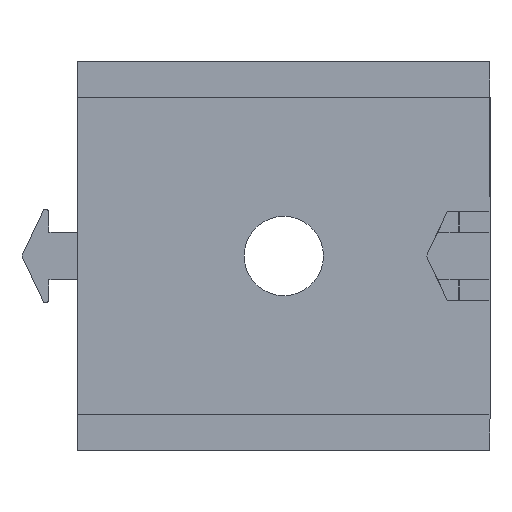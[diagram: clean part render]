
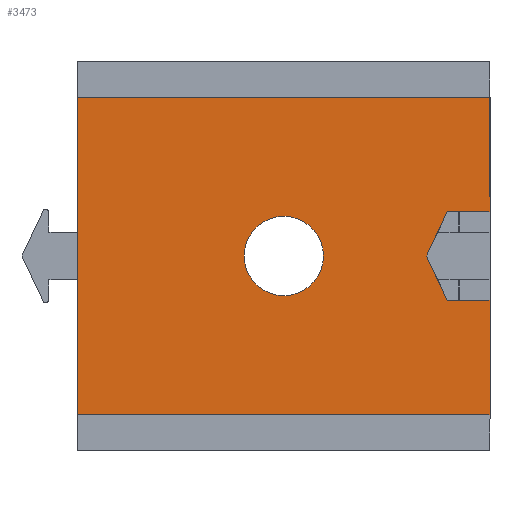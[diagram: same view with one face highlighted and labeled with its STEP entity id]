
A CAD part, front view. The second image highlights one B-rep face of the part: STEP entity #3473.
In plain terms, the highlighted planar face has unit normal (0, -1, 0).
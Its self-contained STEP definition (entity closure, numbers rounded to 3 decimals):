
#169 = CARTESIAN_POINT ( 'NONE',  ( -5.999, -27., 10. ) ) ;
#170 = DIRECTION ( 'NONE',  ( 1., 0., 0. ) ) ;
#193 = CARTESIAN_POINT ( 'NONE',  ( -5.999, -27., -10. ) ) ;
#194 = DIRECTION ( 'NONE',  ( 1., 0., 0. ) ) ;
#281 = PLANE ( 'NONE',  #4165 ) ;
#282 = CARTESIAN_POINT ( 'NONE',  ( -5.999, -27., 10. ) ) ;
#287 = DIRECTION ( 'NONE',  ( 0., 1., 0. ) ) ;
#288 = DIRECTION ( 'NONE',  ( 0., 0., 1. ) ) ;
#350 = CARTESIAN_POINT ( 'NONE',  ( -5.999, -27., 2.8 ) ) ;
#372 = DIRECTION ( 'NONE',  ( 1., 0., 0. ) ) ;
#569 = CARTESIAN_POINT ( 'NONE',  ( 0., -27., 0. ) ) ;
#570 = DIRECTION ( 'NONE',  ( 0., 1., 0. ) ) ;
#571 = DIRECTION ( 'NONE',  ( 0., 0., 1. ) ) ;
#744 = CARTESIAN_POINT ( 'NONE',  ( 13., -27., 10. ) ) ;
#808 = CARTESIAN_POINT ( 'NONE',  ( -13., -27., 10. ) ) ;
#854 = CARTESIAN_POINT ( 'NONE',  ( 13., -27., -2.8 ) ) ;
#884 = CARTESIAN_POINT ( 'NONE',  ( 0., -27., -2.5 ) ) ;
#894 = CARTESIAN_POINT ( 'NONE',  ( 13., -27., 2.8 ) ) ;
#914 = CARTESIAN_POINT ( 'NONE',  ( 10.306, -27., 2.8 ) ) ;
#927 = CARTESIAN_POINT ( 'NONE',  ( 0., -27., 2.5 ) ) ;
#945 = CARTESIAN_POINT ( 'NONE',  ( 13., -27., -10. ) ) ;
#951 = CARTESIAN_POINT ( 'NONE',  ( 9., -27., 0. ) ) ;
#986 = CARTESIAN_POINT ( 'NONE',  ( 10.306, -27., -2.8 ) ) ;
#991 = CARTESIAN_POINT ( 'NONE',  ( -13., -27., -10. ) ) ;
#1028 = CARTESIAN_POINT ( 'NONE',  ( 13., -27., 10. ) ) ;
#1029 = DIRECTION ( 'NONE',  ( 0., 0., -1. ) ) ;
#1076 = CARTESIAN_POINT ( 'NONE',  ( 10.151, -27., 2.469 ) ) ;
#1077 = DIRECTION ( 'NONE',  ( 0.423, 0., 0.906 ) ) ;
#1224 = CARTESIAN_POINT ( 'NONE',  ( -5.999, -27., -2.8 ) ) ;
#1225 = DIRECTION ( 'NONE',  ( -1., 0., 0. ) ) ;
#1580 = EDGE_CURVE ( 'NONE', #4748, #4705, #3657, .T. ) ;
#1965 = CARTESIAN_POINT ( 'NONE',  ( -13., -27., 10. ) ) ;
#1983 = CARTESIAN_POINT ( 'NONE',  ( 2.491, -27., 13.959 ) ) ;
#2003 = DIRECTION ( 'NONE',  ( -0.423, 0., 0.906 ) ) ;
#2186 = DIRECTION ( 'NONE',  ( 0., 0., -1. ) ) ;
#2201 = DIRECTION ( 'NONE',  ( 0., 0., -1. ) ) ;
#2202 = CARTESIAN_POINT ( 'NONE',  ( 13., -27., 10. ) ) ;
#2349 = EDGE_CURVE ( 'NONE', #4675, #4766, #3839, .T. ) ;
#2381 = EDGE_CURVE ( 'NONE', #4629, #4813, #2853, .T. ) ;
#2387 = EDGE_CURVE ( 'NONE', #4807, #4772, #2865, .T. ) ;
#2586 = EDGE_CURVE ( 'NONE', #4629, #4565, #3005, .T. ) ;
#2597 = EDGE_CURVE ( 'NONE', #4813, #4766, #3027, .T. ) ;
#2623 = ORIENTED_EDGE ( 'NONE', *, *, #2597, .T. ) ;
#2650 = ORIENTED_EDGE ( 'NONE', *, *, #2381, .T. ) ;
#2685 = ORIENTED_EDGE ( 'NONE', *, *, #1580, .T. ) ;
#2746 = ORIENTED_EDGE ( 'NONE', *, *, #2586, .F. ) ;
#2782 = ORIENTED_EDGE ( 'NONE', *, *, #2387, .T. ) ;
#2787 = ORIENTED_EDGE ( 'NONE', *, *, #4944, .F. ) ;
#2791 = ORIENTED_EDGE ( 'NONE', *, *, #4966, .T. ) ;
#2819 = ORIENTED_EDGE ( 'NONE', *, *, #5033, .T. ) ;
#2822 = ORIENTED_EDGE ( 'NONE', *, *, #3909, .T. ) ;
#2832 = ORIENTED_EDGE ( 'NONE', *, *, #3962, .T. ) ;
#2844 = ORIENTED_EDGE ( 'NONE', *, *, #2349, .F. ) ;
#2853 = LINE ( 'NONE', #1965, #2855 ) ;
#2855 = VECTOR ( 'NONE', #2201, 1000. ) ;
#2865 = LINE ( 'NONE', #1983, #2866 ) ;
#2866 = VECTOR ( 'NONE', #2003, 1000. ) ;
#3005 = LINE ( 'NONE', #169, #3006 ) ;
#3006 = VECTOR ( 'NONE', #170, 1000. ) ;
#3027 = LINE ( 'NONE', #193, #3028 ) ;
#3028 = VECTOR ( 'NONE', #194, 1000. ) ;
#3080 = FACE_OUTER_BOUND ( 'NONE', #5196, .T. ) ;
#3085 = FACE_BOUND ( 'NONE', #5155, .T. ) ;
#3112 = LINE ( 'NONE', #350, #3128 ) ;
#3128 = VECTOR ( 'NONE', #372, 1000. ) ;
#3208 = CIRCLE ( 'NONE', #4204, 2.5 ) ;
#3253 = LINE ( 'NONE', #1028, #3256 ) ;
#3256 = VECTOR ( 'NONE', #1029, 1000. ) ;
#3303 = LINE ( 'NONE', #1076, #3304 ) ;
#3304 = VECTOR ( 'NONE', #1077, 1000. ) ;
#3421 = LINE ( 'NONE', #1224, #3422 ) ;
#3422 = VECTOR ( 'NONE', #1225, 1000. ) ;
#3473 = ADVANCED_FACE ( 'NONE', ( #3085, #3080 ), #281, .F. ) ;
#3657 = CIRCLE ( 'NONE', #4001, 2.5 ) ;
#3839 = LINE ( 'NONE', #2202, #3849 ) ;
#3849 = VECTOR ( 'NONE', #2186, 1000. ) ;
#3909 = EDGE_CURVE ( 'NONE', #4735, #4715, #3112, .T. ) ;
#3962 = EDGE_CURVE ( 'NONE', #4705, #4748, #3208, .T. ) ;
#4001 = AXIS2_PLACEMENT_3D ( 'NONE', #4373, #4372, #4371 ) ;
#4165 = AXIS2_PLACEMENT_3D ( 'NONE', #282, #287, #288 ) ;
#4204 = AXIS2_PLACEMENT_3D ( 'NONE', #569, #570, #571 ) ;
#4371 = DIRECTION ( 'NONE',  ( 0., 0., 1. ) ) ;
#4372 = DIRECTION ( 'NONE',  ( 0., 1., 0. ) ) ;
#4373 = CARTESIAN_POINT ( 'NONE',  ( 0., -27., 0. ) ) ;
#4565 = VERTEX_POINT ( 'NONE', #744 ) ;
#4629 = VERTEX_POINT ( 'NONE', #808 ) ;
#4675 = VERTEX_POINT ( 'NONE', #854 ) ;
#4705 = VERTEX_POINT ( 'NONE', #884 ) ;
#4715 = VERTEX_POINT ( 'NONE', #894 ) ;
#4735 = VERTEX_POINT ( 'NONE', #914 ) ;
#4748 = VERTEX_POINT ( 'NONE', #927 ) ;
#4766 = VERTEX_POINT ( 'NONE', #945 ) ;
#4772 = VERTEX_POINT ( 'NONE', #951 ) ;
#4807 = VERTEX_POINT ( 'NONE', #986 ) ;
#4813 = VERTEX_POINT ( 'NONE', #991 ) ;
#4944 = EDGE_CURVE ( 'NONE', #4565, #4715, #3253, .T. ) ;
#4966 = EDGE_CURVE ( 'NONE', #4772, #4735, #3303, .T. ) ;
#5033 = EDGE_CURVE ( 'NONE', #4675, #4807, #3421, .T. ) ;
#5155 = EDGE_LOOP ( 'NONE', ( #2685, #2832 ) ) ;
#5196 = EDGE_LOOP ( 'NONE', ( #2791, #2822, #2787, #2746, #2650, #2623, #2844, #2819, #2782 ) ) ;
